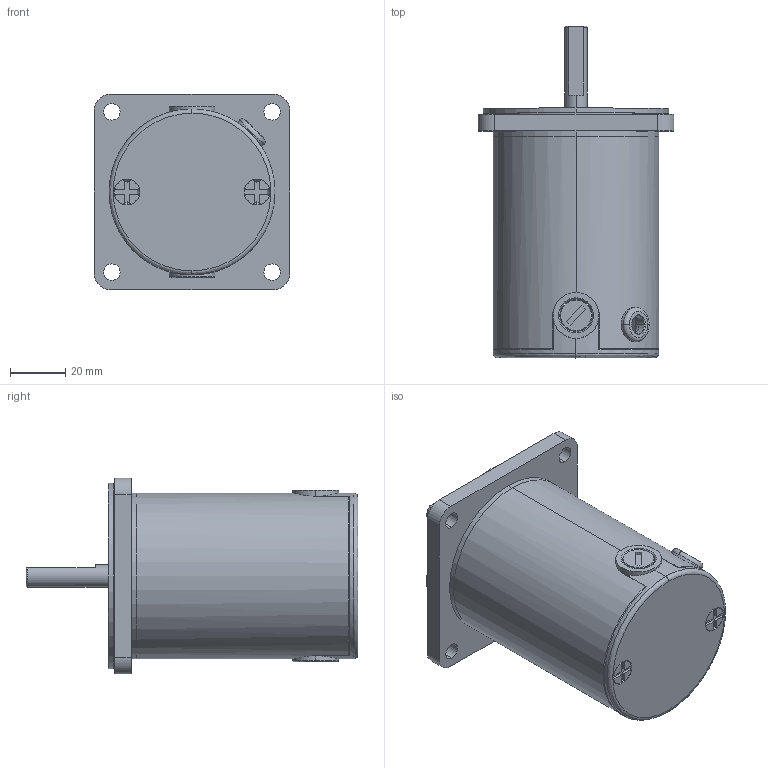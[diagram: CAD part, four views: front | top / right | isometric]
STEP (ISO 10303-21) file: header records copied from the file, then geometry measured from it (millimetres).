
FILE_DESCRIPTION (( 'STEP AP214' ), '1' );
FILE_NAME ('Z3D15W俋离77儂褲嫖萇儂.STEP', '2021-07-29T01:58:03', ( '' ), ( '' ), 'SwSTEP 2.0', 'SolidWorks 2021', '' );
FILE_SCHEMA (( 'AUTOMOTIVE_DESIGN' ));
Length unit declared in the file: millimetre
Products named in the file (6): 蚾饜极21^60 65儂褲俋离; 俋离蹟隊; Z3D15W俋离77儂褲嫖萇儂; z3d25-12gn-30s-019-00001m; PRT0001; 儂褲俋离65
Assembly tree (6 placements, depth 3):
  Z3D15W俋离77儂褲嫖萇儂
    蚾饜极21^60 65儂褲俋离
      儂褲俋离65
      PRT0001
    俋离蹟隊  x2
    z3d25-12gn-30s-019-00001m
Bounding box: 70.8 x 120 x 70.8 mm (x, y, z)
Volume: 84635.2 mm3; surface area: 55170.2 mm2
Topology: 8 solids, 8 shells, 218 faces, 545 edges, 356 vertices
Faces by surface type: cylinder 94, plane 94, cone 23, bspline 6, torus 1
Entity records: 7041 total; most frequent: CARTESIAN_POINT 1978, DIRECTION 1054, ORIENTED_EDGE 972, EDGE_CURVE 486, AXIS2_PLACEMENT_3D 413, VERTEX_POINT 318, EDGE_LOOP 236, LINE 228
